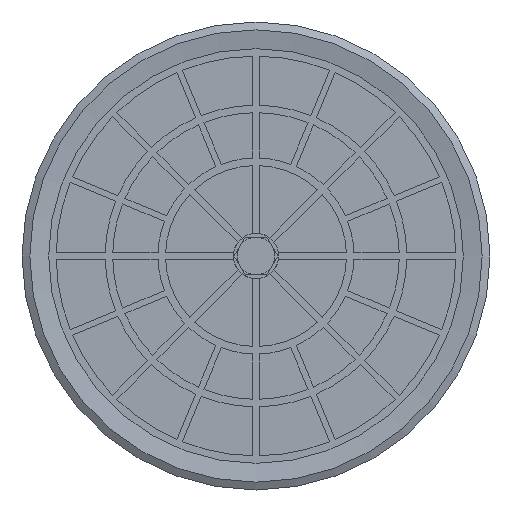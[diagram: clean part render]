
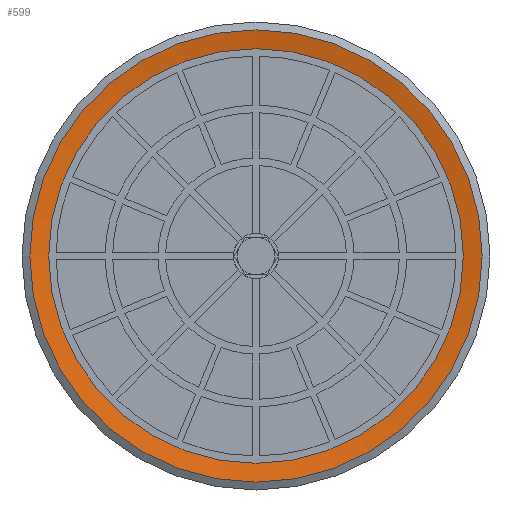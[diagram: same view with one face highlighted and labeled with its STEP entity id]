
A CAD part, front view. The second image highlights one B-rep face of the part: STEP entity #599.
In plain terms, the highlighted conical face has half-angle 80 degrees and reference radius 15 mm.
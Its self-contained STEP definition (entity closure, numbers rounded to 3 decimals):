
#599=ADVANCED_FACE('',(#1174,#1175),#1176,.F.);
#1174=FACE_BOUND('',#1970,.T.);
#1175=FACE_OUTER_BOUND('',#1971,.T.);
#1176=CONICAL_SURFACE('',#1972,15.0,1.396);
#1970=EDGE_LOOP('',(#3566));
#1971=EDGE_LOOP('',(#3567));
#1972=AXIS2_PLACEMENT_3D('',#3568,#3569,#3570);
#3566=ORIENTED_EDGE('',*,*,#5463,.T.);
#3567=ORIENTED_EDGE('',*,*,#5464,.F.);
#3568=CARTESIAN_POINT('',(0.0,0.,0.));
#3569=DIRECTION('',(0.0,0.,-1.0));
#3570=DIRECTION('',(0.0,1.0,0.));
#5463=EDGE_CURVE('',#6594,#6594,#6595,.T.);
#5464=EDGE_CURVE('',#6596,#6596,#6597,.T.);
#6594=VERTEX_POINT('',#8543);
#6595=CIRCLE('',#8544,13.75);
#6596=VERTEX_POINT('',#8545);
#6597=CIRCLE('',#8546,15.0);
#8543=CARTESIAN_POINT('',(0.0,-13.75,0.22));
#8544=AXIS2_PLACEMENT_3D('',#10005,#10006,#10007);
#8545=CARTESIAN_POINT('',(0.0,-15.0,0.));
#8546=AXIS2_PLACEMENT_3D('',#10008,#10009,#10010);
#10005=CARTESIAN_POINT('',(0.0,0.,0.22));
#10006=DIRECTION('',(0.0,0.,1.0));
#10007=DIRECTION('',(0.0,-1.0,0.));
#10008=CARTESIAN_POINT('',(0.0,0.,0.));
#10009=DIRECTION('',(0.0,0.,1.0));
#10010=DIRECTION('',(0.0,-1.0,0.));
